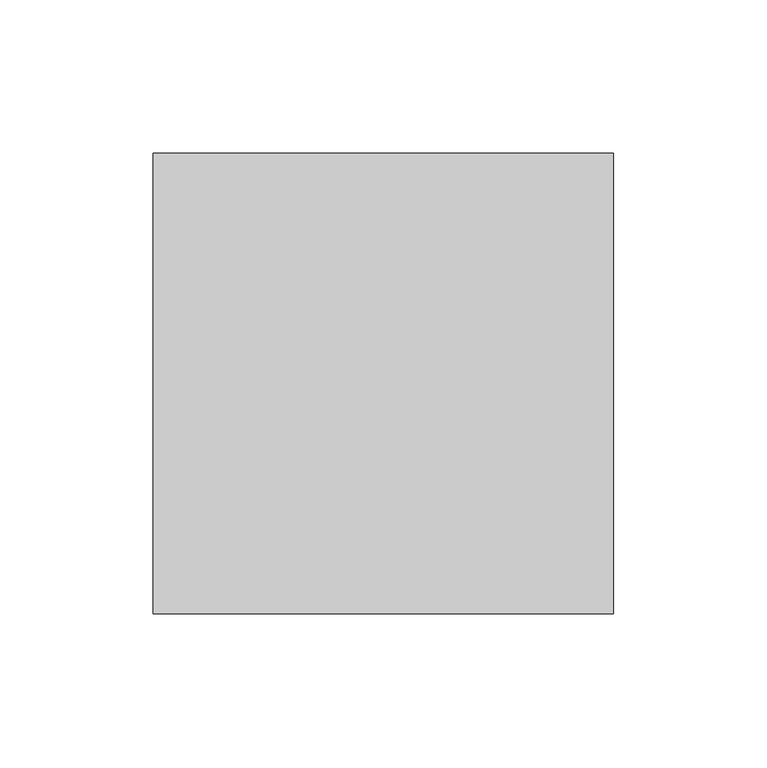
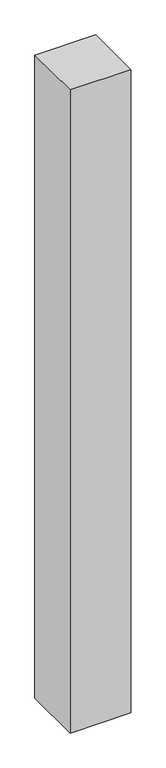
"""IFC4 building model written with IfcOpenShell, lengths in millimetres: member geometry, Угловой L-импост : Угловой L-импост."""

import ifcopenshell
import ifcopenshell.guid

model = None  # the IFC model being written
_history = None  # IfcOwnerHistory: only IFC2X3 demands one
_inside = {}  # id of a spatial element -> (the spatial element, [elements in it])
_under = {}  # id of a project, library or spatial element -> (it, [spatial elements below it])
_declared = {}  # id of a project -> (the project, [libraries it declares])
_typed = {}  # id of a type object -> (the type object, [elements of that type])
_made_of = {}  # id of a material, layer set ... -> (it, [elements and type objects made of it])


def new_model(schema):
    """Start an empty IFC model of exactly this schema.

    Asked for "IFC4X3", IfcOpenShell would pick the latest addendum, in which some entities
    have other attributes; the version numbers below select the first issue.
    IFC2X3 requires an IfcOwnerHistory on every rooted entity: one is made here for all.
    """
    global model, _history
    if schema == "IFC4X3":
        model = ifcopenshell.file(schema_version=(4, 3, 0, 0))
    else:
        model = ifcopenshell.file(schema=schema)
    _inside.clear()
    _under.clear()
    _declared.clear()
    _typed.clear()
    _made_of.clear()
    _history = None
    if model.schema == "IFC2X3":
        org = make("IfcOrganization", Name="unknown")
        user = make(
            "IfcPersonAndOrganization",
            ThePerson=make("IfcPerson", FamilyName="unknown"),
            TheOrganization=org,
        )
        app = make(
            "IfcApplication",
            ApplicationDeveloper=org,
            Version="unknown",
            ApplicationFullName="unknown",
            ApplicationIdentifier="unknown",
        )
        _history = make(
            "IfcOwnerHistory",
            OwningUser=user,
            OwningApplication=app,
            ChangeAction="ADDED",
            CreationDate=0,
        )
    return model


def make(cls, **values):
    """One entity of the class cls with the attributes given. An attribute that is None is left unset."""
    return model.create_entity(
        cls, **{name: value for name, value in values.items() if value is not None}
    )


def rooted(cls, **values):
    """An entity with a GlobalId (a new one), such as an element, a storey or a relation."""
    return make(cls, GlobalId=ifcopenshell.guid.new(), OwnerHistory=_history, **values)


def si_unit(unit_type, name, prefix=None):
    """IfcSIUnit, for example si_unit("LENGTHUNIT", "METRE", prefix="MILLI")."""
    return make("IfcSIUnit", UnitType=unit_type, Prefix=prefix, Name=name)


def assignment(units):
    """IfcUnitAssignment: the units of a project."""
    return None if units is None else make("IfcUnitAssignment", Units=units)


def point(xyz):
    """IfcCartesianPoint."""
    return None if xyz is None else make("IfcCartesianPoint", Coordinates=xyz)


def direction(xyz):
    """IfcDirection."""
    return None if xyz is None else make("IfcDirection", DirectionRatios=xyz)


def frame(location, z_axis=None, x_axis=None):
    """IfcAxis2Placement3D, a coordinate frame: its origin and axes. An axis left out is left unset."""
    return make(
        "IfcAxis2Placement3D",
        Location=point(location),
        Axis=direction(z_axis),
        RefDirection=direction(x_axis),
    )


def origin():
    """The frame at (0, 0, 0) with its axes left unset."""
    return frame((0.0, 0.0, 0.0))


def place(relative_to, where):
    """IfcLocalPlacement: puts the frame where relative to a parent placement (None: the world)."""
    return make(
        "IfcLocalPlacement", PlacementRelTo=relative_to, RelativePlacement=where
    )


def context(
    kind, dimensions, precision=None, world=None, true_north=None, identifier=None
):
    """IfcGeometricRepresentationContext, for example the 3D "Model" context."""
    return make(
        "IfcGeometricRepresentationContext",
        ContextIdentifier=identifier,
        ContextType=kind,
        CoordinateSpaceDimension=dimensions,
        Precision=precision,
        WorldCoordinateSystem=world,
        TrueNorth=true_north,
    )


def project(units=None, contexts=None):
    """IfcProject with its units and contexts."""
    return rooted(
        "IfcProject",
        Name="project",
        RepresentationContexts=contexts,
        UnitsInContext=assignment(units),
    )


def spatial(cls, under=None, at=None, **own):
    """A site, building, storey or space (cls), placed at a placement, below another one or the project."""
    s = rooted(cls, ObjectPlacement=at, **own)
    if under is not None:
        _under.setdefault(under.id(), (under, []))[1].append(s)
    return s


def polyline(points):
    """IfcPolyline through the points."""
    return make("IfcPolyline", Points=[point(p) for p in points])


def outline(outer, holes=None, kind="AREA"):
    """IfcArbitraryClosedProfileDef: a profile drawn as a closed curve; with holes, ...WithVoids."""
    if holes is None:
        return make("IfcArbitraryClosedProfileDef", ProfileType=kind, OuterCurve=outer)
    return make(
        "IfcArbitraryProfileDefWithVoids",
        ProfileType=kind,
        OuterCurve=outer,
        InnerCurves=holes,
    )


def extrude(swept, where, along, depth):
    """IfcExtrudedAreaSolid: the profile swept, set in the frame where, extruded along a direction by depth."""
    return make(
        "IfcExtrudedAreaSolid",
        SweptArea=swept,
        Position=where,
        ExtrudedDirection=direction(along),
        Depth=depth,
    )


def shape(context_of_items, identifier, shape_type, items):
    """IfcShapeRepresentation: the items that make up one representation, for example the "Body"."""
    return make(
        "IfcShapeRepresentation",
        ContextOfItems=context_of_items,
        RepresentationIdentifier=identifier,
        RepresentationType=shape_type,
        Items=items,
    )


def source(mapping_origin, context_of_items, identifier, shape_type, items):
    """IfcRepresentationMap: a shape defined once, which mapped items show again and again."""
    return make(
        "IfcRepresentationMap",
        MappingOrigin=mapping_origin,
        MappedRepresentation=shape(context_of_items, identifier, shape_type, items),
    )


def transform(
    local_origin,
    x_axis=None,
    y_axis=None,
    z_axis=None,
    scale=None,
    scale2=None,
    scale3=None,
    uniform=True,
):
    """IfcCartesianTransformationOperator3D, or its non-uniform kind. x_axis, y_axis, z_axis: its Axis1, 2, 3."""
    if uniform:
        return make(
            "IfcCartesianTransformationOperator3D",
            Axis1=direction(x_axis),
            Axis2=direction(y_axis),
            LocalOrigin=point(local_origin),
            Scale=scale,
            Axis3=direction(z_axis),
        )
    return make(
        "IfcCartesianTransformationOperator3DnonUniform",
        Axis1=direction(x_axis),
        Axis2=direction(y_axis),
        LocalOrigin=point(local_origin),
        Scale=scale,
        Axis3=direction(z_axis),
        Scale2=scale2,
        Scale3=scale3,
    )


def mapped(mapping_source, mapping_target):
    """IfcMappedItem: shows the shape of a source again, moved by a transform."""
    return make(
        "IfcMappedItem", MappingSource=mapping_source, MappingTarget=mapping_target
    )


def made_of(thing, what):
    """Note that an element or type object is made of a material, layer set ...; save() writes the relation."""
    if what is not None:
        _made_of.setdefault(what.id(), (what, []))[1].append(thing)
    return thing


def element(
    cls,
    number,
    at=None,
    inside=None,
    cuts=None,
    type_object=None,
    material=None,
    context=None,
    identifier="Body",
    shape_type=None,
    held_by="IfcProductDefinitionShape",
    body=None,
    shapes=None,
    **own,
):
    """One element of the class cls, such as IfcWall. Its Tag is "e" and its number.

    at: its placement. inside: the storey or other place that contains it. cuts: it is an
    opening in that element (IfcRelVoidsElement). A single representation is given by context,
    identifier, shape_type and body (its items); several are given by shapes. held_by: the class
    of the entity that holds the representations. save() writes the other relations.
    """
    e = rooted(cls, Tag="e%d" % number, ObjectPlacement=at, **own)
    if body is not None:
        shapes = [shape(context, identifier, shape_type, body)]
    if shapes is not None:
        e.Representation = make(held_by, Representations=shapes)
    if inside is not None:
        _inside.setdefault(inside.id(), (inside, []))[1].append(e)
    if cuts is not None:
        rooted(
            "IfcRelVoidsElement", RelatingBuildingElement=cuts, RelatedOpeningElement=e
        )
    if type_object is not None:
        _typed.setdefault(type_object.id(), (type_object, []))[1].append(e)
    return made_of(e, material)


def aggregate(whole, parts):
    """IfcRelAggregates: a whole, such as a stair, and the parts it consists of."""
    return rooted("IfcRelAggregates", RelatingObject=whole, RelatedObjects=parts)


def save(model, path):
    """Write the relations noted so far, then the file.

    IfcRelAggregates (storeys below a building ...), IfcRelContainedInSpatialStructure (elements
    in a storey), IfcRelDefinesByType, IfcRelAssociatesMaterial and IfcRelDeclares: one each for
    every whole, place, type object, material and project.
    """
    for whole, parts in _under.values():
        aggregate(whole, parts)
    for where, things in _inside.values():
        rooted(
            "IfcRelContainedInSpatialStructure",
            RelatedElements=things,
            RelatingStructure=where,
        )
    for kind, things in _typed.values():
        rooted("IfcRelDefinesByType", RelatedObjects=things, RelatingType=kind)
    for what, things in _made_of.values():
        rooted("IfcRelAssociatesMaterial", RelatedObjects=things, RelatingMaterial=what)
    for by, libraries in _declared.values():
        rooted("IfcRelDeclares", RelatingContext=by, RelatedDefinitions=libraries)
    model.write(path)


def member_ce519c9f(model_context):
    return source(origin(), model_context, "Body", "SweptSolid", [
        extrude(outline(polyline([(-75.0, -75.0), (-75.0, 75.0), (75.0, 75.0), (75.0, -75.0), (-75.0, -75.0)])), frame((0.0, 0.0, -1675.0), z_axis=(0.0, 0.0, 1.0), x_axis=(1.0, 0.0, 0.0)), (0.0, 0.0, 1.0), 1675.0),
    ])


if __name__ == "__main__":
    model = new_model("IFC4")
    model_context = context("Model", 3, world=origin())
    ifc_project = project(units=[si_unit("LENGTHUNIT", "METRE", prefix="MILLI")], contexts=[model_context])
    site = spatial("IfcSite", under=ifc_project)
    building = spatial("IfcBuilding", under=site)
    placement = place(None, origin())
    member_shape = member_ce519c9f(model_context)
    element("IfcMember", 1, ObjectType="Угловой L-импост : Угловой L-импост", at=placement, inside=building, context=model_context, shape_type="MappedRepresentation", body=[
        mapped(member_shape, transform((0.0, 0.0, 0.0), x_axis=(1.0, 0.0, 0.0), y_axis=(0.0, 1.0, 0.0), z_axis=(0.0, 0.0, 1.0))),
    ])
    save(model, "model.ifc")
